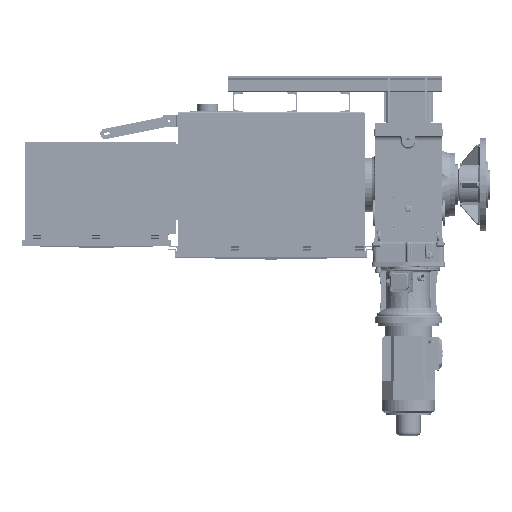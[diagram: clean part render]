
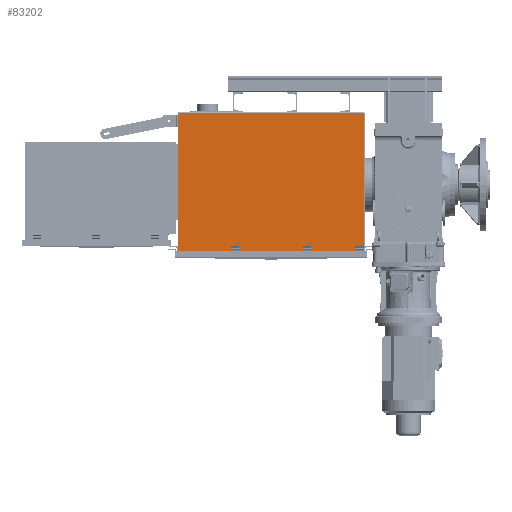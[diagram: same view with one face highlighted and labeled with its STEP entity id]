
A CAD part, top view. The second image highlights one B-rep face of the part: STEP entity #83202.
In plain terms, the highlighted planar face has unit normal (0, 0, 1).
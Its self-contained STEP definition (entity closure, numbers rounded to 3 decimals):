
#3593=FACE_BOUND('',#12356,.T.);
#3594=FACE_BOUND('',#12357,.T.);
#3595=FACE_BOUND('',#12358,.T.);
#5070=PLANE('',#88379);
#7344=FACE_OUTER_BOUND('',#12355,.T.);
#12355=EDGE_LOOP('',(#55382,#55383,#55384,#55385,#55386,#55387,#55388,#55389,
#55390,#55391,#55392,#55393));
#12356=EDGE_LOOP('',(#55394,#55395,#55396,#55397));
#12357=EDGE_LOOP('',(#55398,#55399,#55400,#55401));
#12358=EDGE_LOOP('',(#55402,#55403,#55404,#55405));
#18399=LINE('',#119158,#24437);
#18416=LINE('',#119203,#24454);
#18418=LINE('',#119207,#24456);
#18419=LINE('',#119209,#24457);
#18420=LINE('',#119218,#24458);
#18437=LINE('',#119263,#24475);
#18439=LINE('',#119267,#24477);
#18440=LINE('',#119269,#24478);
#18441=LINE('',#119278,#24479);
#18458=LINE('',#119323,#24496);
#18460=LINE('',#119327,#24498);
#18461=LINE('',#119329,#24499);
#18764=LINE('',#120269,#24802);
#18767=LINE('',#120275,#24805);
#18770=LINE('',#120282,#24808);
#18773=LINE('',#120286,#24811);
#18779=LINE('',#120298,#24817);
#18781=LINE('',#120302,#24819);
#18783=LINE('',#120305,#24821);
#18784=LINE('',#120308,#24822);
#18785=LINE('',#120310,#24823);
#18786=LINE('',#120311,#24824);
#18787=LINE('',#120313,#24825);
#18788=LINE('',#120314,#24826);
#24437=VECTOR('',#96952,40.);
#24454=VECTOR('',#96995,40.);
#24456=VECTOR('',#96999,40.);
#24457=VECTOR('',#97002,40.);
#24458=VECTOR('',#97011,40.);
#24475=VECTOR('',#97054,40.);
#24477=VECTOR('',#97058,40.);
#24478=VECTOR('',#97061,40.);
#24479=VECTOR('',#97070,40.);
#24496=VECTOR('',#97113,40.);
#24498=VECTOR('',#97117,40.);
#24499=VECTOR('',#97120,40.);
#24802=VECTOR('',#98087,865.);
#24805=VECTOR('',#98092,0.992);
#24808=VECTOR('',#98097,2.976);
#24811=VECTOR('',#98102,1.984);
#24817=VECTOR('',#98112,2.976);
#24819=VECTOR('',#98116,0.992);
#24821=VECTOR('',#98120,1.984);
#24822=VECTOR('',#98123,23.016);
#24823=VECTOR('',#98124,699.016);
#24824=VECTOR('',#98125,915.);
#24825=VECTOR('',#98126,699.016);
#24826=VECTOR('',#98127,23.016);
#33925=VERTEX_POINT('',#119156);
#33926=VERTEX_POINT('',#119157);
#33941=VERTEX_POINT('',#119201);
#33942=VERTEX_POINT('',#119205);
#33945=VERTEX_POINT('',#119216);
#33946=VERTEX_POINT('',#119217);
#33961=VERTEX_POINT('',#119261);
#33962=VERTEX_POINT('',#119265);
#33965=VERTEX_POINT('',#119276);
#33966=VERTEX_POINT('',#119277);
#33981=VERTEX_POINT('',#119321);
#33982=VERTEX_POINT('',#119325);
#34194=VERTEX_POINT('',#119969);
#34286=VERTEX_POINT('',#120261);
#34287=VERTEX_POINT('',#120265);
#34289=VERTEX_POINT('',#120273);
#34291=VERTEX_POINT('',#120279);
#34292=VERTEX_POINT('',#120281);
#34295=VERTEX_POINT('',#120295);
#34296=VERTEX_POINT('',#120297);
#34297=VERTEX_POINT('',#120301);
#34298=VERTEX_POINT('',#120307);
#34299=VERTEX_POINT('',#120309);
#34300=VERTEX_POINT('',#120312);
#41992=EDGE_CURVE('',#33925,#33926,#18399,.T.);
#42015=EDGE_CURVE('',#33926,#33941,#18416,.T.);
#42017=EDGE_CURVE('',#33942,#33925,#18418,.T.);
#42018=EDGE_CURVE('',#33941,#33942,#18419,.T.);
#42021=EDGE_CURVE('',#33945,#33946,#18420,.T.);
#42044=EDGE_CURVE('',#33946,#33961,#18437,.T.);
#42046=EDGE_CURVE('',#33962,#33945,#18439,.T.);
#42047=EDGE_CURVE('',#33961,#33962,#18440,.T.);
#42050=EDGE_CURVE('',#33965,#33966,#18441,.T.);
#42073=EDGE_CURVE('',#33966,#33981,#18458,.T.);
#42075=EDGE_CURVE('',#33982,#33965,#18460,.T.);
#42076=EDGE_CURVE('',#33981,#33982,#18461,.T.);
#42518=EDGE_CURVE('',#34286,#34287,#18764,.T.);
#42521=EDGE_CURVE('',#34287,#34289,#18767,.T.);
#42524=EDGE_CURVE('',#34292,#34291,#18770,.T.);
#42527=EDGE_CURVE('',#34289,#34292,#18773,.T.);
#42533=EDGE_CURVE('',#34296,#34295,#18779,.T.);
#42535=EDGE_CURVE('',#34297,#34286,#18781,.T.);
#42537=EDGE_CURVE('',#34295,#34297,#18783,.T.);
#42538=EDGE_CURVE('',#34298,#34291,#18784,.T.);
#42539=EDGE_CURVE('',#34299,#34298,#18785,.T.);
#42540=EDGE_CURVE('',#34299,#34194,#18786,.T.);
#42541=EDGE_CURVE('',#34300,#34194,#18787,.T.);
#42542=EDGE_CURVE('',#34296,#34300,#18788,.T.);
#55382=ORIENTED_EDGE('',*,*,#42524,.T.);
#55383=ORIENTED_EDGE('',*,*,#42538,.F.);
#55384=ORIENTED_EDGE('',*,*,#42539,.F.);
#55385=ORIENTED_EDGE('',*,*,#42540,.T.);
#55386=ORIENTED_EDGE('',*,*,#42541,.F.);
#55387=ORIENTED_EDGE('',*,*,#42542,.F.);
#55388=ORIENTED_EDGE('',*,*,#42533,.T.);
#55389=ORIENTED_EDGE('',*,*,#42537,.T.);
#55390=ORIENTED_EDGE('',*,*,#42535,.T.);
#55391=ORIENTED_EDGE('',*,*,#42518,.T.);
#55392=ORIENTED_EDGE('',*,*,#42521,.T.);
#55393=ORIENTED_EDGE('',*,*,#42527,.T.);
#55394=ORIENTED_EDGE('',*,*,#41992,.T.);
#55395=ORIENTED_EDGE('',*,*,#42015,.T.);
#55396=ORIENTED_EDGE('',*,*,#42018,.T.);
#55397=ORIENTED_EDGE('',*,*,#42017,.T.);
#55398=ORIENTED_EDGE('',*,*,#42021,.T.);
#55399=ORIENTED_EDGE('',*,*,#42044,.T.);
#55400=ORIENTED_EDGE('',*,*,#42047,.T.);
#55401=ORIENTED_EDGE('',*,*,#42046,.T.);
#55402=ORIENTED_EDGE('',*,*,#42050,.T.);
#55403=ORIENTED_EDGE('',*,*,#42073,.T.);
#55404=ORIENTED_EDGE('',*,*,#42076,.T.);
#55405=ORIENTED_EDGE('',*,*,#42075,.T.);
#83202=ADVANCED_FACE('',(#7344,#3593,#3594,#3595),#5070,.F.);
#88379=AXIS2_PLACEMENT_3D('',#120306,#98121,#98122);
#96952=DIRECTION('',(0.,1.,0.));
#96995=DIRECTION('',(1.,0.,0.));
#96999=DIRECTION('',(-1.,0.,0.));
#97002=DIRECTION('',(0.,-1.,0.));
#97011=DIRECTION('',(0.,1.,0.));
#97054=DIRECTION('',(1.,0.,0.));
#97058=DIRECTION('',(-1.,0.,0.));
#97061=DIRECTION('',(0.,-1.,0.));
#97070=DIRECTION('',(0.,1.,0.));
#97113=DIRECTION('',(1.,0.,0.));
#97117=DIRECTION('',(-1.,0.,0.));
#97120=DIRECTION('',(0.,-1.,0.));
#98087=DIRECTION('',(1.,0.,0.));
#98092=DIRECTION('',(0.,1.,0.));
#98097=DIRECTION('',(0.,-1.,0.));
#98102=DIRECTION('',(1.,0.,0.));
#98112=DIRECTION('',(0.,1.,0.));
#98116=DIRECTION('',(0.,-1.,0.));
#98120=DIRECTION('',(1.,0.,0.));
#98121=DIRECTION('center_axis',(0.,0.,
-1.));
#98122=DIRECTION('ref_axis',(1.,0.,0.));
#98123=DIRECTION('',(-1.,0.,0.));
#98124=DIRECTION('',(0.,-1.,0.));
#98125=DIRECTION('',(-1.,0.,0.));
#98126=DIRECTION('',(0.,1.,0.));
#98127=DIRECTION('',(-1.,0.,0.));
#119156=CARTESIAN_POINT('',(-387.982,-551.817,774.738));
#119157=CARTESIAN_POINT('',(-387.982,-511.817,774.738));
#119158=CARTESIAN_POINT('',(-387.982,-364.737,774.738));
#119201=CARTESIAN_POINT('',(-347.982,-511.817,774.738));
#119203=CARTESIAN_POINT('',(-585.482,-511.817,774.738));
#119205=CARTESIAN_POINT('',(-347.982,-551.817,774.738));
#119207=CARTESIAN_POINT('',(-585.482,-551.817,774.738));
#119209=CARTESIAN_POINT('',(-347.982,-364.737,774.738));
#119216=CARTESIAN_POINT('',(-997.982,-551.817,774.738));
#119217=CARTESIAN_POINT('',(-997.982,-511.817,774.738));
#119218=CARTESIAN_POINT('',(-997.982,-364.737,774.738));
#119261=CARTESIAN_POINT('',(-957.982,-511.817,774.738));
#119263=CARTESIAN_POINT('',(-890.482,-511.817,774.738));
#119265=CARTESIAN_POINT('',(-957.982,-551.817,774.738));
#119267=CARTESIAN_POINT('',(-890.482,-551.817,774.738));
#119269=CARTESIAN_POINT('',(-957.982,-364.737,774.738));
#119276=CARTESIAN_POINT('',(-647.982,-551.817,774.738));
#119277=CARTESIAN_POINT('',(-647.982,-511.817,774.738));
#119278=CARTESIAN_POINT('',(-647.982,-364.737,774.738));
#119321=CARTESIAN_POINT('',(-607.982,-511.817,774.738));
#119323=CARTESIAN_POINT('',(-715.482,-511.817,774.738));
#119325=CARTESIAN_POINT('',(-607.982,-551.817,774.738));
#119327=CARTESIAN_POINT('',(-715.482,-551.817,774.738));
#119329=CARTESIAN_POINT('',(-607.982,-364.737,774.738));
#119969=CARTESIAN_POINT('',(-1260.482,141.483,774.738));
#120261=CARTESIAN_POINT('',(-1235.482,-555.55,774.738));
#120265=CARTESIAN_POINT('',(-370.482,-555.55,774.738));
#120269=CARTESIAN_POINT('',(-586.732,-555.55,774.738));
#120273=CARTESIAN_POINT('',(-370.482,-554.558,774.738));
#120275=CARTESIAN_POINT('',(-370.482,-380.17,774.738));
#120279=CARTESIAN_POINT('',(-368.498,-557.534,774.738));
#120281=CARTESIAN_POINT('',(-368.498,-554.558,774.738));
#120282=CARTESIAN_POINT('',(-368.498,-381.658,774.738));
#120286=CARTESIAN_POINT('',(-585.74,-554.558,774.738));
#120295=CARTESIAN_POINT('',(-1237.466,-554.558,774.738));
#120297=CARTESIAN_POINT('',(-1237.466,-557.534,774.738));
#120298=CARTESIAN_POINT('',(-1237.466,-380.17,774.738));
#120301=CARTESIAN_POINT('',(-1235.482,-554.558,774.738));
#120302=CARTESIAN_POINT('',(-1235.482,-381.658,774.738));
#120305=CARTESIAN_POINT('',(-1019.232,-554.558,774.738));
#120306=CARTESIAN_POINT('Origin',(-802.982,-205.782,774.738));
#120307=CARTESIAN_POINT('',(-345.482,-557.534,774.738));
#120308=CARTESIAN_POINT('',(-345.482,-557.534,774.738));
#120309=CARTESIAN_POINT('',(-345.482,141.483,774.738));
#120310=CARTESIAN_POINT('',(-345.482,141.483,774.738));
#120311=CARTESIAN_POINT('',(-802.982,141.483,774.738));
#120312=CARTESIAN_POINT('',(-1260.482,-557.534,774.738));
#120313=CARTESIAN_POINT('',(-1260.482,150.457,774.738));
#120314=CARTESIAN_POINT('',(-345.482,-557.534,774.738));
